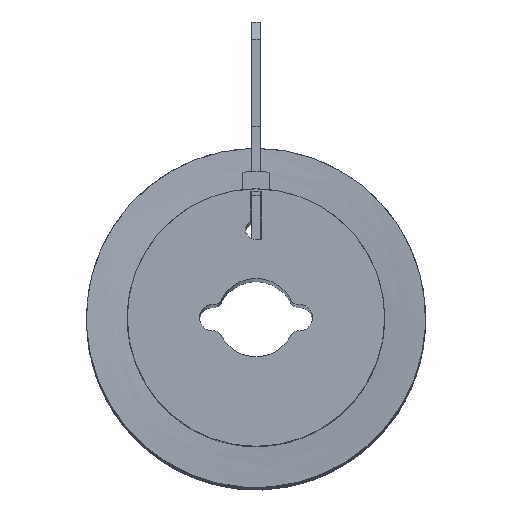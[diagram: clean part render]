
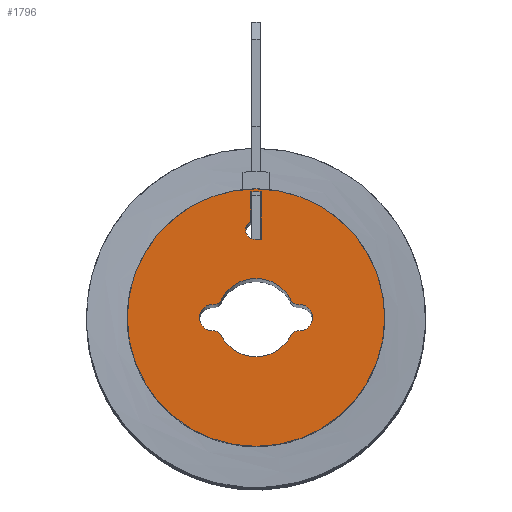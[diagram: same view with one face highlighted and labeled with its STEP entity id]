
A CAD part, top view. The second image highlights one B-rep face of the part: STEP entity #1796.
In plain terms, the highlighted planar face has unit normal (0, 0, 1).
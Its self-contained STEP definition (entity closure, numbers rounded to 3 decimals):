
#26=FACE_BOUND($,#279,.T.);
#27=FACE_BOUND($,#280,.T.);
#38=CIRCLE($,#1821,14.5);
#42=CIRCLE($,#1827,14.8);
#73=CIRCLE($,#1923,1.1);
#74=CIRCLE($,#1926,4.5);
#75=CIRCLE($,#1927,1.);
#76=CIRCLE($,#1928,1.5);
#77=CIRCLE($,#1929,1.);
#78=CIRCLE($,#1930,4.5);
#79=CIRCLE($,#1931,1.);
#80=CIRCLE($,#1932,1.5);
#81=CIRCLE($,#1933,1.);
#183=FACE_OUTER_BOUND($,#278,.T.);
#278=EDGE_LOOP($,(#1511));
#279=EDGE_LOOP($,(#1512,#1513,#1514,#1515,#1516));
#280=EDGE_LOOP($,(#1517,#1518,#1519,#1520,#1521,#1522,#1523,#1524));
#439=LINE($,#7257,#623);
#464=LINE($,#7311,#648);
#467=LINE($,#7320,#651);
#623=VECTOR($,#2286,0.7);
#648=VECTOR($,#2349,5.488);
#651=VECTOR($,#2360,3.408);
#686=VERTEX_POINT($,#6935);
#687=VERTEX_POINT($,#6937);
#691=VERTEX_POINT($,#6949);
#795=VERTEX_POINT($,#7254);
#796=VERTEX_POINT($,#7256);
#808=VERTEX_POINT($,#7315);
#809=VERTEX_POINT($,#7322);
#810=VERTEX_POINT($,#7323);
#811=VERTEX_POINT($,#7325);
#812=VERTEX_POINT($,#7327);
#813=VERTEX_POINT($,#7329);
#814=VERTEX_POINT($,#7331);
#815=VERTEX_POINT($,#7333);
#816=VERTEX_POINT($,#7335);
#855=EDGE_CURVE($,#687,#686,#38,.T.);
#861=EDGE_CURVE($,#691,#691,#42,.T.);
#1015=EDGE_CURVE($,#796,#795,#439,.T.);
#1043=EDGE_CURVE($,#686,#796,#464,.T.);
#1046=EDGE_CURVE($,#795,#808,#73,.T.);
#1048=EDGE_CURVE($,#808,#687,#467,.T.);
#1049=EDGE_CURVE($,#809,#810,#74,.T.);
#1050=EDGE_CURVE($,#810,#811,#75,.T.);
#1051=EDGE_CURVE($,#811,#812,#76,.T.);
#1052=EDGE_CURVE($,#812,#813,#77,.T.);
#1053=EDGE_CURVE($,#813,#814,#78,.T.);
#1054=EDGE_CURVE($,#814,#815,#79,.T.);
#1055=EDGE_CURVE($,#815,#816,#80,.T.);
#1056=EDGE_CURVE($,#816,#809,#81,.T.);
#1511=ORIENTED_EDGE($,*,*,#861,.T.);
#1512=ORIENTED_EDGE($,*,*,#1048,.T.);
#1513=ORIENTED_EDGE($,*,*,#855,.T.);
#1514=ORIENTED_EDGE($,*,*,#1043,.T.);
#1515=ORIENTED_EDGE($,*,*,#1015,.T.);
#1516=ORIENTED_EDGE($,*,*,#1046,.T.);
#1517=ORIENTED_EDGE($,*,*,#1049,.T.);
#1518=ORIENTED_EDGE($,*,*,#1050,.T.);
#1519=ORIENTED_EDGE($,*,*,#1051,.T.);
#1520=ORIENTED_EDGE($,*,*,#1052,.T.);
#1521=ORIENTED_EDGE($,*,*,#1053,.T.);
#1522=ORIENTED_EDGE($,*,*,#1054,.T.);
#1523=ORIENTED_EDGE($,*,*,#1055,.T.);
#1524=ORIENTED_EDGE($,*,*,#1056,.T.);
#1635=PLANE($,#1925);
#1796=ADVANCED_FACE($,(#183,#26,#27),#1635,.T.);
#1821=AXIS2_PLACEMENT_3D($,#6938,#1995,#1996);
#1827=AXIS2_PLACEMENT_3D($,#6950,#2009,#2010);
#1923=AXIS2_PLACEMENT_3D($,#7317,#2355,#2356);
#1925=AXIS2_PLACEMENT_3D($,#7321,#2361,#2362);
#1926=AXIS2_PLACEMENT_3D($,#7324,#2363,#2364);
#1927=AXIS2_PLACEMENT_3D($,#7326,#2365,#2366);
#1928=AXIS2_PLACEMENT_3D($,#7328,#2367,#2368);
#1929=AXIS2_PLACEMENT_3D($,#7330,#2369,#2370);
#1930=AXIS2_PLACEMENT_3D($,#7332,#2371,#2372);
#1931=AXIS2_PLACEMENT_3D($,#7334,#2373,#2374);
#1932=AXIS2_PLACEMENT_3D($,#7336,#2375,#2376);
#1933=AXIS2_PLACEMENT_3D($,#7337,#2377,#2378);
#1995=DIRECTION('center_axis',(0.,0.,
-1.));
#1996=DIRECTION('ref_axis',(-1.,0.,0.));
#2009=DIRECTION('center_axis',(0.,0.,
1.));
#2010=DIRECTION('ref_axis',(-1.,0.,0.));
#2286=DIRECTION($,(-1.,0.,0.));
#2349=DIRECTION($,(0.,-1.,0.));
#2355=DIRECTION('center_axis',(0.,0.,-1.));
#2356=DIRECTION('ref_axis',(0.455,-0.891,0.));
#2360=DIRECTION($,(0.,1.,0.));
#2361=DIRECTION('center_axis',(0.,0.,1.));
#2362=DIRECTION('ref_axis',(1.,0.,0.));
#2363=DIRECTION('center_axis',(0.,0.,-1.));
#2364=DIRECTION('ref_axis',(0.891,0.454,0.));
#2365=DIRECTION('center_axis',(0.,0.,1.));
#2366=DIRECTION('ref_axis',(0.891,0.454,0.));
#2367=DIRECTION('center_axis',(0.,0.,-1.));
#2368=DIRECTION('ref_axis',(-0.04,-0.999,0.));
#2369=DIRECTION('center_axis',(0.,0.,1.));
#2370=DIRECTION('ref_axis',(-0.04,-0.999,0.));
#2371=DIRECTION('center_axis',(0.,0.,-1.));
#2372=DIRECTION('ref_axis',(-0.891,-0.454,0.));
#2373=DIRECTION('center_axis',(0.,0.,1.));
#2374=DIRECTION('ref_axis',(-0.891,-0.454,0.));
#2375=DIRECTION('center_axis',(0.,0.,-1.));
#2376=DIRECTION('ref_axis',(0.04,0.999,0.));
#2377=DIRECTION('center_axis',(0.,0.,1.));
#2378=DIRECTION('ref_axis',(0.04,0.999,0.));
#6935=CARTESIAN_POINT('',(0.6,14.488,107.5));
#6937=CARTESIAN_POINT('',(-0.6,14.488,107.5));
#6938=CARTESIAN_POINT('Origin',(0.,0.,
107.5));
#6949=CARTESIAN_POINT('',(14.8,0.,107.5));
#6950=CARTESIAN_POINT('Origin',(0.,0.,
107.5));
#7254=CARTESIAN_POINT('',(-0.1,9.,107.5));
#7256=CARTESIAN_POINT('',(0.6,9.,107.5));
#7257=CARTESIAN_POINT($,(-0.05,9.,107.5));
#7311=CARTESIAN_POINT($,(0.6,4.5,107.5));
#7315=CARTESIAN_POINT('',(-0.6,11.08,107.5));
#7317=CARTESIAN_POINT('Origin',(-0.1,10.1,107.5));
#7320=CARTESIAN_POINT($,(-0.6,7.244,107.5));
#7321=CARTESIAN_POINT('Origin',(0.,0.,107.5));
#7322=CARTESIAN_POINT('',(-4.009,2.044,107.5));
#7323=CARTESIAN_POINT('',(4.009,2.044,107.5));
#7324=CARTESIAN_POINT('Origin',(0.,0.,107.5));
#7325=CARTESIAN_POINT('',(4.94,1.499,107.5));
#7326=CARTESIAN_POINT('Origin',(4.9,2.498,107.5));
#7327=CARTESIAN_POINT('',(4.94,-1.499,107.5));
#7328=CARTESIAN_POINT('Origin',(5.,0.,107.5));
#7329=CARTESIAN_POINT('',(4.009,-2.044,107.5));
#7330=CARTESIAN_POINT('Origin',(4.9,-2.498,107.5));
#7331=CARTESIAN_POINT('',(-4.009,-2.044,107.5));
#7332=CARTESIAN_POINT('Origin',(0.,0.,107.5));
#7333=CARTESIAN_POINT('',(-4.94,-1.499,107.5));
#7334=CARTESIAN_POINT('Origin',(-4.9,-2.498,107.5));
#7335=CARTESIAN_POINT('',(-4.94,1.499,107.5));
#7336=CARTESIAN_POINT('Origin',(-5.,0.,107.5));
#7337=CARTESIAN_POINT('Origin',(-4.9,2.498,107.5));
